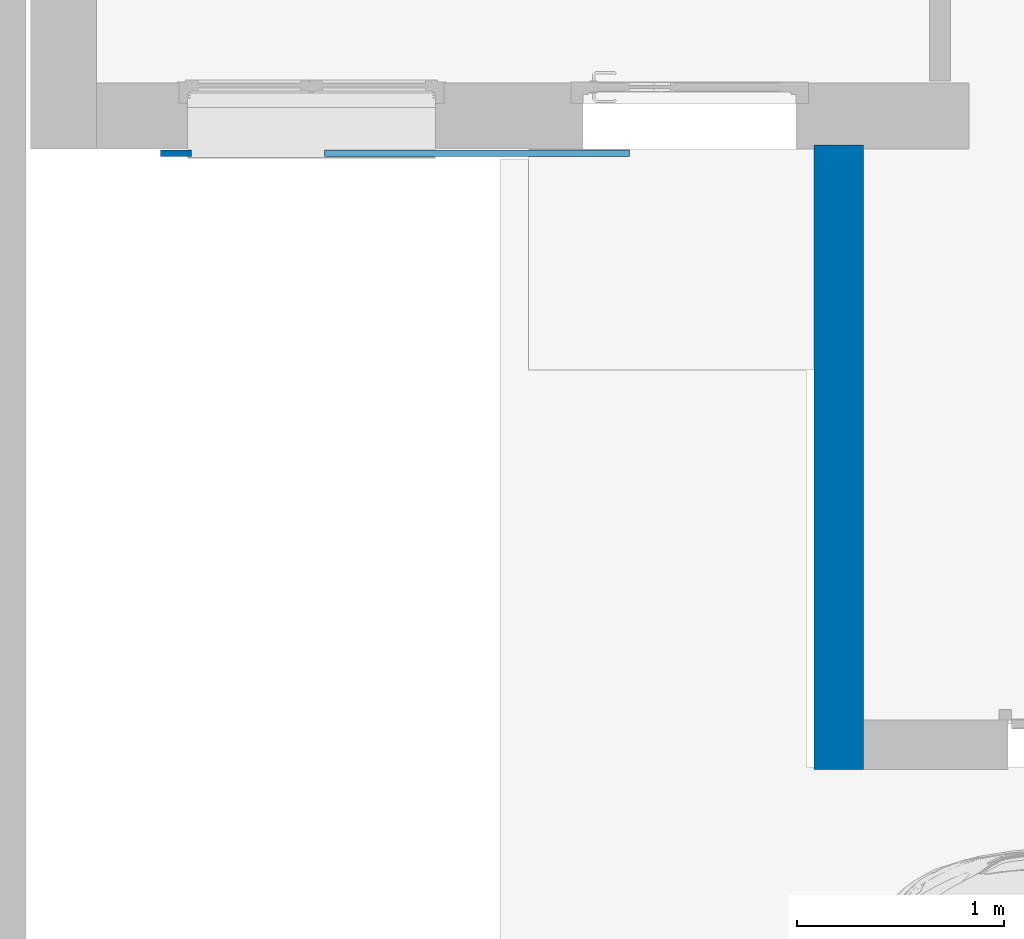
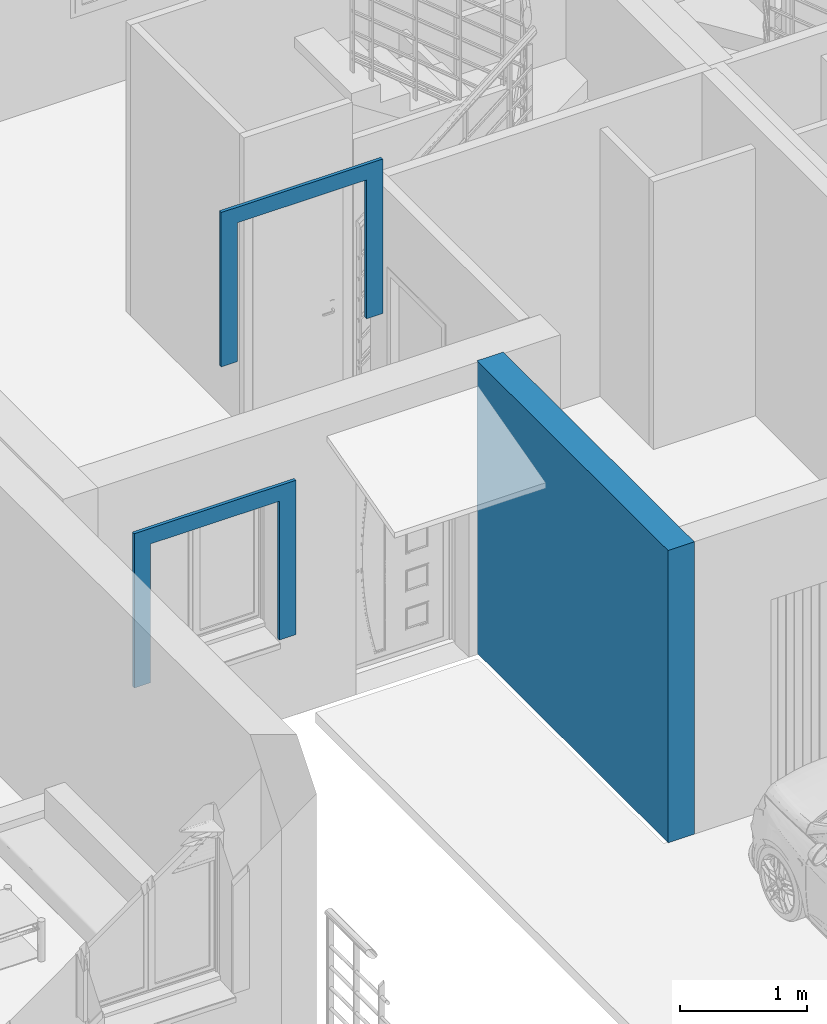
# One storey, part 16 of 33: 3 walls, 2 openings.
"""IFC2X3 building model written with IfcOpenShell, lengths in metres."""

import ifcopenshell
import ifcopenshell.guid

model = None  # the IFC model being written
_history = None  # IfcOwnerHistory: only IFC2X3 demands one
_inside = {}  # id of a spatial element -> (the spatial element, [elements in it])
_under = {}  # id of a project, library or spatial element -> (it, [spatial elements below it])
_declared = {}  # id of a project -> (the project, [libraries it declares])
_typed = {}  # id of a type object -> (the type object, [elements of that type])
_made_of = {}  # id of a material, layer set ... -> (it, [elements and type objects made of it])


def new_model(schema):
    """Start an empty IFC model of exactly this schema.

    Asked for "IFC4X3", IfcOpenShell would pick the latest addendum, in which some entities
    have other attributes; the version numbers below select the first issue.
    IFC2X3 requires an IfcOwnerHistory on every rooted entity: one is made here for all.
    """
    global model, _history
    if schema == "IFC4X3":
        model = ifcopenshell.file(schema_version=(4, 3, 0, 0))
    else:
        model = ifcopenshell.file(schema=schema)
    _inside.clear()
    _under.clear()
    _declared.clear()
    _typed.clear()
    _made_of.clear()
    _history = None
    if model.schema == "IFC2X3":
        org = make("IfcOrganization", Name="unknown")
        user = make(
            "IfcPersonAndOrganization",
            ThePerson=make("IfcPerson", FamilyName="unknown"),
            TheOrganization=org,
        )
        app = make(
            "IfcApplication",
            ApplicationDeveloper=org,
            Version="unknown",
            ApplicationFullName="unknown",
            ApplicationIdentifier="unknown",
        )
        _history = make(
            "IfcOwnerHistory",
            OwningUser=user,
            OwningApplication=app,
            ChangeAction="ADDED",
            CreationDate=0,
        )
    return model


def make(cls, **values):
    """One entity of the class cls with the attributes given. An attribute that is None is left unset."""
    return model.create_entity(
        cls, **{name: value for name, value in values.items() if value is not None}
    )


def entity(cls, *values):
    """Any entity or typed value of the class cls, its attributes in the order of the schema. None: left unset."""
    e = model.create_entity(cls)
    for i, value in enumerate(values):
        if value is not None:
            e[i] = value
    return e


def rooted(cls, **values):
    """An entity with a GlobalId (a new one), such as an element, a storey or a relation."""
    return make(cls, GlobalId=ifcopenshell.guid.new(), OwnerHistory=_history, **values)


def si_unit(unit_type, name, prefix=None):
    """IfcSIUnit, for example si_unit("LENGTHUNIT", "METRE", prefix="MILLI")."""
    return make("IfcSIUnit", UnitType=unit_type, Prefix=prefix, Name=name)


def converted_unit(unit_type, name, factor, base, dimensions=None, offset=None):
    """IfcConversionBasedUnit, such as the inch: factor (a typed value) times the base unit."""
    return make(
        "IfcConversionBasedUnit"
        if offset is None
        else "IfcConversionBasedUnitWithOffset",
        ConversionOffset=offset,
        Dimensions=None
        if dimensions is None
        else entity("IfcDimensionalExponents", *dimensions),
        UnitType=unit_type,
        Name=name,
        ConversionFactor=make(
            "IfcMeasureWithUnit", ValueComponent=factor, UnitComponent=base
        ),
    )


def derived_unit(unit_type, elements):
    """IfcDerivedUnit: a product of units, each with its exponent."""
    return make(
        "IfcDerivedUnit",
        Elements=[
            make("IfcDerivedUnitElement", Unit=unit, Exponent=power)
            for unit, power in elements
        ],
        UnitType=unit_type,
    )


def assignment(units):
    """IfcUnitAssignment: the units of a project."""
    return None if units is None else make("IfcUnitAssignment", Units=units)


def point(xyz):
    """IfcCartesianPoint."""
    return None if xyz is None else make("IfcCartesianPoint", Coordinates=xyz)


def direction(xyz):
    """IfcDirection."""
    return None if xyz is None else make("IfcDirection", DirectionRatios=xyz)


def frame(location, z_axis=None, x_axis=None):
    """IfcAxis2Placement3D, a coordinate frame: its origin and axes. An axis left out is left unset."""
    return make(
        "IfcAxis2Placement3D",
        Location=point(location),
        Axis=direction(z_axis),
        RefDirection=direction(x_axis),
    )


def frame_2d(location, x_axis=None):
    """IfcAxis2Placement2D, a coordinate frame in the plane: its origin and x axis."""
    return make(
        "IfcAxis2Placement2D", Location=point(location), RefDirection=direction(x_axis)
    )


def origin():
    """The frame at (0, 0, 0) with its axes left unset."""
    return frame((0.0, 0.0, 0.0))


def place(relative_to, where):
    """IfcLocalPlacement: puts the frame where relative to a parent placement (None: the world)."""
    return make(
        "IfcLocalPlacement", PlacementRelTo=relative_to, RelativePlacement=where
    )


def context(
    kind, dimensions, precision=None, world=None, true_north=None, identifier=None
):
    """IfcGeometricRepresentationContext, for example the 3D "Model" context."""
    return make(
        "IfcGeometricRepresentationContext",
        ContextIdentifier=identifier,
        ContextType=kind,
        CoordinateSpaceDimension=dimensions,
        Precision=precision,
        WorldCoordinateSystem=world,
        TrueNorth=true_north,
    )


def subcontext(parent, identifier, kind, view, scale=None):
    """IfcGeometricRepresentationSubContext, for example "Body" below "Model"."""
    return make(
        "IfcGeometricRepresentationSubContext",
        ContextIdentifier=identifier,
        ContextType=kind,
        ParentContext=parent,
        TargetScale=scale,
        TargetView=view,
    )


def project(units=None, contexts=None):
    """IfcProject with its units and contexts."""
    return rooted(
        "IfcProject",
        Name="project",
        RepresentationContexts=contexts,
        UnitsInContext=assignment(units),
    )


def spatial(cls, under=None, at=None, **own):
    """A site, building, storey or space (cls), placed at a placement, below another one or the project."""
    s = rooted(cls, ObjectPlacement=at, **own)
    if under is not None:
        _under.setdefault(under.id(), (under, []))[1].append(s)
    return s


def profile(cls, at=None, kind="AREA", **sizes):
    """A parametric profile (cls). Its sizes go by their IFC names, for example OverallWidth=200.0."""
    return make(cls, ProfileType=kind, Position=at, **sizes)


def rectangle(**sizes):
    """IfcRectangleProfileDef."""
    return profile("IfcRectangleProfileDef", **sizes)


def extrude(swept, where, along, depth):
    """IfcExtrudedAreaSolid: the profile swept, set in the frame where, extruded along a direction by depth."""
    return make(
        "IfcExtrudedAreaSolid",
        SweptArea=swept,
        Position=where,
        ExtrudedDirection=direction(along),
        Depth=depth,
    )


def clip(a, b, op="DIFFERENCE"):
    """IfcBooleanClippingResult: the solid a cut by the half space b."""
    return make(
        "IfcBooleanClippingResult", Operator=op, FirstOperand=a, SecondOperand=b
    )


def halfspace(plane, agree):
    """IfcHalfSpaceSolid: all space on one side of the plane z = 0 of the frame plane."""
    return make(
        "IfcHalfSpaceSolid",
        BaseSurface=make("IfcPlane", Position=plane),
        AgreementFlag=agree,
    )


def shape(context_of_items, identifier, shape_type, items):
    """IfcShapeRepresentation: the items that make up one representation, for example the "Body"."""
    return make(
        "IfcShapeRepresentation",
        ContextOfItems=context_of_items,
        RepresentationIdentifier=identifier,
        RepresentationType=shape_type,
        Items=items,
    )


def material(Name=None, Category=None):
    """IfcMaterial."""
    return make("IfcMaterial", Name=Name, Category=Category)


def layer(
    of_material, thickness, ventilated=None, Name=None, Category=None, Priority=None
):
    """IfcMaterialLayer: one layer of a wall or slab, of a material (None: an air gap)."""
    return make(
        "IfcMaterialLayer",
        Material=of_material,
        LayerThickness=thickness,
        IsVentilated=ventilated,
        Name=Name,
        Category=Category,
        Priority=Priority,
    )


def layer_set(layers, Name=None):
    """IfcMaterialLayerSet."""
    return make("IfcMaterialLayerSet", MaterialLayers=layers, LayerSetName=Name)


def layer_usage(for_layer_set, set_direction, sense, offset, extent=None):
    """IfcMaterialLayerSetUsage: how a layer set lies in its element."""
    return make(
        "IfcMaterialLayerSetUsage",
        ForLayerSet=for_layer_set,
        LayerSetDirection=set_direction,
        DirectionSense=sense,
        OffsetFromReferenceLine=offset,
        ReferenceExtent=extent,
    )


def made_of(thing, what):
    """Note that an element or type object is made of a material, layer set ...; save() writes the relation."""
    if what is not None:
        _made_of.setdefault(what.id(), (what, []))[1].append(thing)
    return thing


def type_object(cls, material=None, **own):
    """A type object (cls), such as IfcWallType, which elements share."""
    return made_of(rooted(cls, **own), material)


def element(
    cls,
    number,
    at=None,
    inside=None,
    cuts=None,
    type_object=None,
    material=None,
    context=None,
    identifier="Body",
    shape_type=None,
    held_by="IfcProductDefinitionShape",
    body=None,
    shapes=None,
    **own,
):
    """One element of the class cls, such as IfcWall. Its Tag is "e" and its number.

    at: its placement. inside: the storey or other place that contains it. cuts: it is an
    opening in that element (IfcRelVoidsElement). A single representation is given by context,
    identifier, shape_type and body (its items); several are given by shapes. held_by: the class
    of the entity that holds the representations. save() writes the other relations.
    """
    e = rooted(cls, Tag="e%d" % number, ObjectPlacement=at, **own)
    if body is not None:
        shapes = [shape(context, identifier, shape_type, body)]
    if shapes is not None:
        e.Representation = make(held_by, Representations=shapes)
    if inside is not None:
        _inside.setdefault(inside.id(), (inside, []))[1].append(e)
    if cuts is not None:
        rooted(
            "IfcRelVoidsElement", RelatingBuildingElement=cuts, RelatedOpeningElement=e
        )
    if type_object is not None:
        _typed.setdefault(type_object.id(), (type_object, []))[1].append(e)
    return made_of(e, material)


def aggregate(whole, parts):
    """IfcRelAggregates: a whole, such as a stair, and the parts it consists of."""
    return rooted("IfcRelAggregates", RelatingObject=whole, RelatedObjects=parts)


def save(model, path):
    """Write the relations noted so far, then the file.

    IfcRelAggregates (storeys below a building ...), IfcRelContainedInSpatialStructure (elements
    in a storey), IfcRelDefinesByType, IfcRelAssociatesMaterial and IfcRelDeclares: one each for
    every whole, place, type object, material and project.
    """
    for whole, parts in _under.values():
        aggregate(whole, parts)
    for where, things in _inside.values():
        rooted(
            "IfcRelContainedInSpatialStructure",
            RelatedElements=things,
            RelatingStructure=where,
        )
    for kind, things in _typed.values():
        rooted("IfcRelDefinesByType", RelatedObjects=things, RelatingType=kind)
    for what, things in _made_of.values():
        rooted("IfcRelAssociatesMaterial", RelatedObjects=things, RelatingMaterial=what)
    for by, libraries in _declared.values():
        rooted("IfcRelDeclares", RelatingContext=by, RelatedDefinitions=libraries)
    model.write(path)


model = new_model("IFC2X3")

# Units and contexts
model_context = context("Model", 3, precision=1e-05, world=origin(), true_north=direction((6.12303176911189e-17, 1.0)))
context_of_model = context(None, 3, precision=1e-05, world=origin(), true_north=direction((6.12303176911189e-17, 1.0)))
body_context = subcontext(model_context, "Body", "Model", "MODEL_VIEW")
ifc_project = project(units=[si_unit("LENGTHUNIT", "METRE"), si_unit("AREAUNIT", "SQUARE_METRE"), si_unit("VOLUMEUNIT", "CUBIC_METRE"), converted_unit("PLANEANGLEUNIT", "DEGREE", entity("IfcRatioMeasure", 0.0174532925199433), si_unit("PLANEANGLEUNIT", "RADIAN"), dimensions=[0, 0, 0, 0, 0, 0, 0]), si_unit("MASSUNIT", "GRAM", prefix="KILO"), si_unit("TIMEUNIT", "SECOND"), si_unit("FREQUENCYUNIT", "HERTZ"), si_unit("THERMODYNAMICTEMPERATUREUNIT", "DEGREE_CELSIUS"), derived_unit("THERMALTRANSMITTANCEUNIT", [(si_unit("MASSUNIT", "GRAM", prefix="KILO"), 1), (si_unit("THERMODYNAMICTEMPERATUREUNIT", "KELVIN"), -1), (si_unit("TIMEUNIT", "SECOND"), -3)]), derived_unit("VOLUMETRICFLOWRATEUNIT", [(si_unit("LENGTHUNIT", "METRE"), 3), (si_unit("TIMEUNIT", "SECOND"), -1)]), si_unit("ELECTRICCURRENTUNIT", "AMPERE"), si_unit("ELECTRICVOLTAGEUNIT", "VOLT"), si_unit("POWERUNIT", "WATT"), si_unit("FORCEUNIT", "NEWTON", prefix="KILO"), si_unit("ILLUMINANCEUNIT", "LUX"), si_unit("LUMINOUSFLUXUNIT", "LUMEN"), si_unit("LUMINOUSINTENSITYUNIT", "CANDELA"), si_unit("PRESSUREUNIT", "PASCAL")], contexts=[model_context, context_of_model])

# Site, building, storey
site_placement = place(None, origin())
site = spatial("IfcSite", under=ifc_project, at=site_placement, Name="Surface", CompositionType="ELEMENT")
building_placement = place(site_placement, origin())
building = spatial("IfcBuilding", under=site, at=building_placement, CompositionType="ELEMENT")
storey_placement = place(building_placement, origin())
storey = spatial("IfcBuildingStorey", under=building, at=storey_placement, Name="Plan des fondations  Maisons 1 et 2", CompositionType="ELEMENT", Elevation=0.0)

# Wall
ifc_material_1 = material(Name="Enduit  gris")
ifc_layer_1 = layer(ifc_material_1, 0.02)
ifc_material_2 = material(Name="Parpaing")
ifc_layer_2 = layer(ifc_material_2, 0.2)
ifc_layer_3 = layer(ifc_material_1, 0.02)
ifc_layer_set_1 = layer_set([ifc_layer_1, ifc_layer_2, ifc_layer_3], Name="Mur de base:Ext. Parpaing 2 + 20 + 2 gris")
ifc_layer_usage_1 = layer_usage(ifc_layer_set_1, "AXIS2", "POSITIVE", -0.12)
wall_type_1 = type_object("IfcWallType", Name="Mur de base:Ext. Parpaing 2 + 20 + 2 gris", PredefinedType="STANDARD", material=ifc_layer_set_1)
wall_1_placement = place(storey_placement, frame((80.2110189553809, 80.9275239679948, 0.0), z_axis=(0.0, 0.0, 1.0), x_axis=(0.0, 1.0, 0.0)))
element("IfcWallStandardCase", 1, at=wall_1_placement, inside=storey, type_object=wall_type_1, material=ifc_layer_usage_1, Name="Mur de base:Ext. Parpaing 2 + 20 + 2 gris", ObjectType="Mur de base:Ext. Parpaing 2 + 20 + 2 gris", context=body_context, shape_type="SweptSolid", body=[
    extrude(rectangle(XDim=3.02000000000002, YDim=0.240000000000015, at=frame_2d((1.51000000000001, 3.78863607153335e-15), x_axis=(-1.0, 0.0))), origin(), (0.0, 0.0, 1.0), 2.82),
])

# Wall, opening
ifc_material_3 = material(Name="Enduit blanc cassé")
ifc_layer_4 = layer(ifc_material_3, 0.01)
ifc_layer_5 = layer(ifc_material_2, 0.01)
ifc_layer_6 = layer(ifc_material_3, 0.01)
ifc_layer_set_2 = layer_set([ifc_layer_4, ifc_layer_5, ifc_layer_6], Name="Mur de base:modénateurs ep 2 cm gris")
ifc_layer_usage_2 = layer_usage(ifc_layer_set_2, "AXIS2", "POSITIVE", -0.015)
wall_type_2 = type_object("IfcWallType", Name="Mur de base:modénateurs ep 2 cm gris", PredefinedType="STANDARD", material=ifc_layer_set_2)
wall_2_placement = place(storey_placement, frame((78.407756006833, 83.9075239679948, 0.799999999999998), z_axis=(0.0, 0.0, 1.0), x_axis=(-1.0, 0.0, 0.0)))
wall_2 = element("IfcWallStandardCase", 2, at=wall_2_placement, inside=storey, type_object=wall_type_2, material=ifc_layer_usage_2, Name="Mur de base:modénateurs ep 2 cm gris", ObjectType="Mur de base:modénateurs ep 2 cm gris", context=body_context, shape_type="SweptSolid", body=[
    extrude(rectangle(XDim=1.47499999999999, YDim=0.0299999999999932, at=frame_2d((0.737499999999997, 0.0), x_axis=(-1.0, 0.0))), origin(), (0.0, 0.0, 1.0), 1.48912543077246),
])
opening_1_placement = place(wall_2_placement, origin())
element("IfcOpeningElement", 3, at=opening_1_placement, cuts=wall_2, Name="Mur de base:modénateurs ep 2 cm gris", ObjectType="Opening", context=body_context, shape_type="SweptSolid", body=[
    extrude(rectangle(XDim=1.33912543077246, YDim=1.17499999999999, at=frame_2d((0.0, 0.0), x_axis=(0.0, 1.0))), frame((0.737499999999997, 0.0149999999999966, 0.669562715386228), z_axis=(0.0, -1.0, 0.0), x_axis=(1.0, 0.0, 0.0)), (0.0, 0.0, 1.0), 0.03),
])

ifc_layer_usage_3 = layer_usage(ifc_layer_set_2, "AXIS2", "POSITIVE", -0.015)
wall_3_placement = place(storey_placement, frame((79.201172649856, 83.9075239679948, 3.62087456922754), z_axis=(0.0, 0.0, 1.0), x_axis=(-1.0, 0.0, 0.0)))
wall_3 = element("IfcWallStandardCase", 4, at=wall_3_placement, inside=storey, type_object=wall_type_2, material=ifc_layer_usage_3, Name="Mur de base:modénateurs ep 2 cm gris", ObjectType="Mur de base:modénateurs ep 2 cm gris", context=body_context, shape_type="Clipping", body=[
    clip(extrude(rectangle(XDim=1.47499999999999, YDim=0.0299999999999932, at=frame_2d((0.737499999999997, 0.0), x_axis=(-1.0, 0.0))), origin(), (0.0, 0.0, 1.0), 1.48912543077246), halfspace(frame((1.47499999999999, -0.0149999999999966, 0.0), z_axis=(0.0, 0.0, -1.0), x_axis=(0.0, 1.0, 0.0)), False)),
])
opening_2_placement = place(wall_3_placement, origin())
element("IfcOpeningElement", 5, at=opening_2_placement, cuts=wall_3, Name="Mur de base:modénateurs ep 2 cm gris", ObjectType="Opening", context=body_context, shape_type="SweptSolid", body=[
    extrude(rectangle(XDim=1.33912543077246, YDim=1.17499999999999, at=frame_2d((0.0, 2.77555756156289e-16), x_axis=(0.0, 1.0))), frame((0.737499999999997, 0.0149999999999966, 0.669562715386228), z_axis=(0.0, -1.0, 0.0), x_axis=(1.0, 0.0, 0.0)), (0.0, 0.0, 1.0), 0.03),
])

save(model, "model.ifc")
